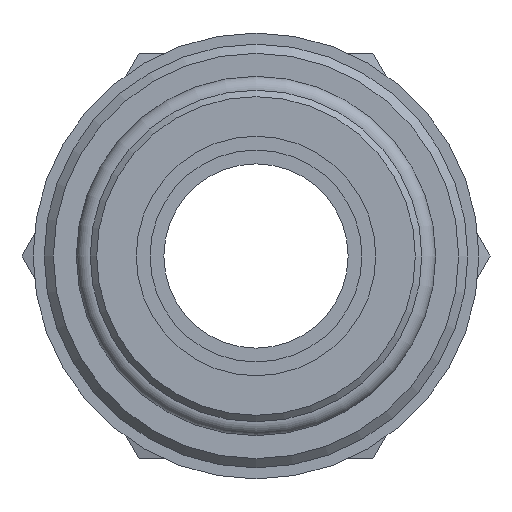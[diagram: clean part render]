
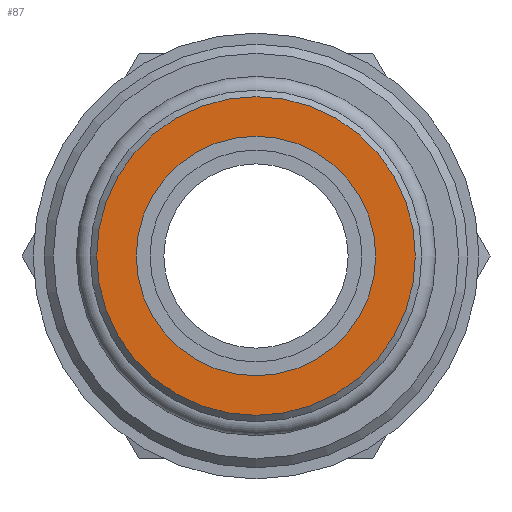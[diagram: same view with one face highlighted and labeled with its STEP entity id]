
A CAD part, left-side view. The second image highlights one B-rep face of the part: STEP entity #87.
In plain terms, the highlighted planar face has unit normal (-1, 0, 0).
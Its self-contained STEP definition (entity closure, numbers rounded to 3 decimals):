
#87 = ADVANCED_FACE( '', ( #148, #149 ), #150, .F. );
#148 = FACE_OUTER_BOUND( '', #272, .T. );
#149 = FACE_BOUND( '', #273, .T. );
#150 = PLANE( '', #274 );
#272 = EDGE_LOOP( '', ( #457 ) );
#273 = EDGE_LOOP( '', ( #458 ) );
#274 = AXIS2_PLACEMENT_3D( '', #459, #460, #461 );
#457 = ORIENTED_EDGE( '', *, *, #688, .F. );
#458 = ORIENTED_EDGE( '', *, *, #689, .T. );
#459 = CARTESIAN_POINT( '', ( -29., 0., 0. ) );
#460 = DIRECTION( '', ( 1., 0., 0. ) );
#461 = DIRECTION( '', ( 0., 0., -1. ) );
#688 = EDGE_CURVE( '', #784, #784, #785, .T. );
#689 = EDGE_CURVE( '', #786, #786, #787, .T. );
#784 = VERTEX_POINT( '', #1022 );
#785 = CIRCLE( '', #1023, 8.65 );
#786 = VERTEX_POINT( '', #1024 );
#787 = CIRCLE( '', #1025, 6.5 );
#1022 = CARTESIAN_POINT( '', ( -29., 0., -8.65 ) );
#1023 = AXIS2_PLACEMENT_3D( '', #1121, #1122, #1123 );
#1024 = CARTESIAN_POINT( '', ( -29., 0., -6.5 ) );
#1025 = AXIS2_PLACEMENT_3D( '', #1124, #1125, #1126 );
#1121 = CARTESIAN_POINT( '', ( -29., 0., 0. ) );
#1122 = DIRECTION( '', ( 1., 0., 0. ) );
#1123 = DIRECTION( '', ( 0., 0., -1. ) );
#1124 = CARTESIAN_POINT( '', ( -29., 0., 0. ) );
#1125 = DIRECTION( '', ( 1., 0., 0. ) );
#1126 = DIRECTION( '', ( 0., 0., -1. ) );
